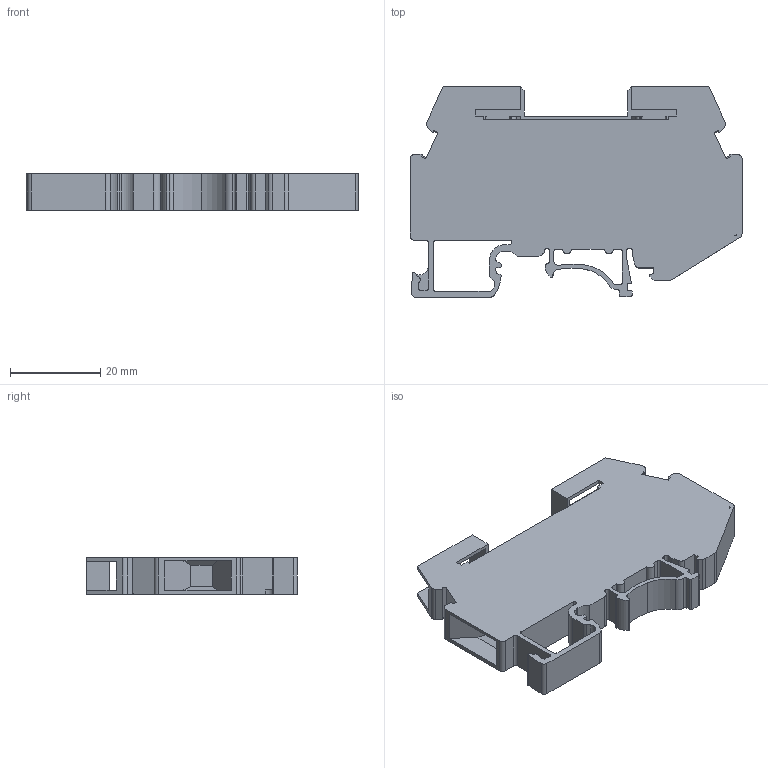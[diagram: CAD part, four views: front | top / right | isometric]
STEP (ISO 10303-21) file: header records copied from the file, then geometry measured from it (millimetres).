
FILE_DESCRIPTION( ('This file contains a STEP AP42 implementation' ,'as created by ZW3D STEP Interface translator.') ,'2;1' );
FILE_NAME( 'RUT6-RTK-Sstp.stp' ,'23 729.143318', (''), ('ZWCAD Software Co.'), 'Version 1.0', 'ZW3D to STEP translator', '' );
FILE_SCHEMA(('AUTOMOTIVE_DESIGN { 1 0 10303 214 1 1 1 1 }'));
Length unit declared in the file: millimetre
Products named in the file (2): 0; RTB6-RTK-S.sldasm-Part-1-1
Bounding box: 73.5 x 46.6 x 8.15 mm (x, y, z)
Volume: 17182.3 mm3; surface area: 9427.8 mm2
Topology: 1 solids, 1 shells, 235 faces, 692 edges, 460 vertices
Faces by surface type: plane 149, cylinder 86
Full cylindrical faces by diameter (mm): 5.3 x2
Entity records: 8109 total; most frequent: CARTESIAN_POINT 1388, ORIENTED_EDGE 1384, DIRECTION 1336, EDGE_CURVE 692, VECTOR 520, LINE 520, VERTEX_POINT 460, AXIS2_PLACEMENT_3D 408
